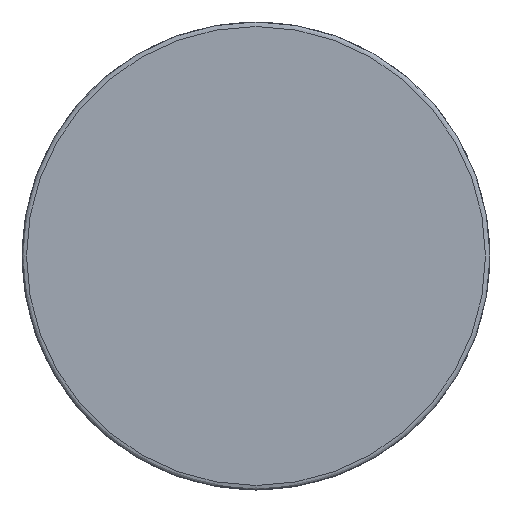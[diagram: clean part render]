
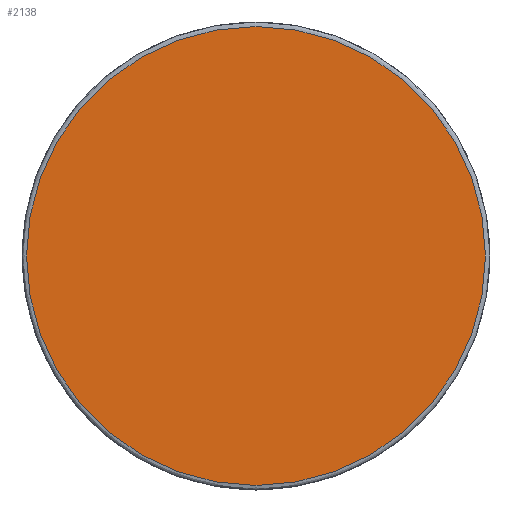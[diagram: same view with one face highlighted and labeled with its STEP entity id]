
A CAD part, left-side view. The second image highlights one B-rep face of the part: STEP entity #2138.
In plain terms, the highlighted planar face has unit normal (-1, 0, 0).
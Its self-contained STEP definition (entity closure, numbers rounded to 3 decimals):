
#2113=CARTESIAN_POINT('',(-514.,-426.309,-61.8));
#2114=DIRECTION('',(-1.0,0.0,0.0));
#2115=DIRECTION('',(0.0,-1.0,0.0));
#2116=AXIS2_PLACEMENT_3D('',#2113,#2114,#2115);
#2117=PLANE('',#2116);
#2118=CARTESIAN_POINT('',(-514.,-538.609,0.0));
#2119=VERTEX_POINT('',#2118);
#2120=CARTESIAN_POINT('',(-514.,-437.609,0.0));
#2121=VERTEX_POINT('',#2120);
#2122=CARTESIAN_POINT('',(-514.,-488.109,0.0));
#2123=DIRECTION('',(-1.0,0.0,0.0));
#2124=DIRECTION('',(0.0,-1.0,0.0));
#2125=AXIS2_PLACEMENT_3D('',#2122,#2123,#2124);
#2126=CIRCLE('',#2125,50.5);
#2127=EDGE_CURVE('',#2119,#2121,#2126,.T.);
#2128=ORIENTED_EDGE('',*,*,#2127,.T.);
#2129=CARTESIAN_POINT('',(-514.,-488.109,0.0));
#2130=DIRECTION('',(-1.0,0.0,0.0));
#2131=DIRECTION('',(0.0,-1.0,0.0));
#2132=AXIS2_PLACEMENT_3D('',#2129,#2130,#2131);
#2133=CIRCLE('',#2132,50.5);
#2134=EDGE_CURVE('',#2121,#2119,#2133,.T.);
#2135=ORIENTED_EDGE('',*,*,#2134,.T.);
#2136=EDGE_LOOP('',(#2128,#2135));
#2137=FACE_OUTER_BOUND('',#2136,.T.);
#2138=ADVANCED_FACE('',(#2137),#2117,.T.);
